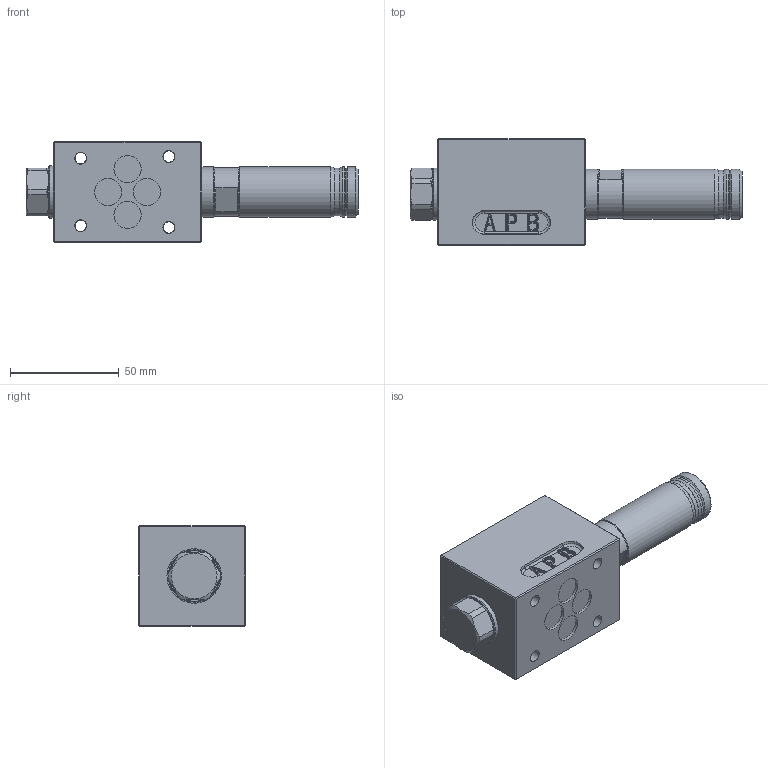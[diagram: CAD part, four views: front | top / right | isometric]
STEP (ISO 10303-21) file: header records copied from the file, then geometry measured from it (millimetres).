
FILE_DESCRIPTION (( 'STEP AP214' ), '1' );
FILE_NAME ('WDPFA06-4_2-Bside.STEP', '2018-03-09T08:24:19', ( '' ), ( '' ), 'SwSTEP 2.0', 'SolidWorks 2016', '' );
FILE_SCHEMA (( 'AUTOMOTIVE_DESIGN' ));
Length unit declared in the file: millimetre
Products named in the file (1): WDPFA06-4_2-Bside
Bounding box: 152.4 x 49 x 46 mm (x, y, z)
Volume: 179844.8 mm3; surface area: 31725.2 mm2
Topology: 5 solids, 5 shells, 1095 faces, 3056 edges, 1986 vertices
Faces by surface type: plane 692, cylinder 307, bspline 36, torus 23, cone 20, sphere 17
Full cylindrical faces by diameter (mm): 1.4 x2, 4.2 x1, 5.2 x4, 5.5 x4, 7.5 x8, 9.5 x4, 12.5 x4, 22 x1, 22.4 x1, 23 x4, 24 x1, 25 x2
Entity records: 48735 total; most frequent: CARTESIAN_POINT 8263, DIRECTION 6033, ORIENTED_EDGE 5948, EDGE_CURVE 2974, AXIS2_PLACEMENT_3D 2101, VERTEX_POINT 1972, VECTOR 1831, LINE 1831
